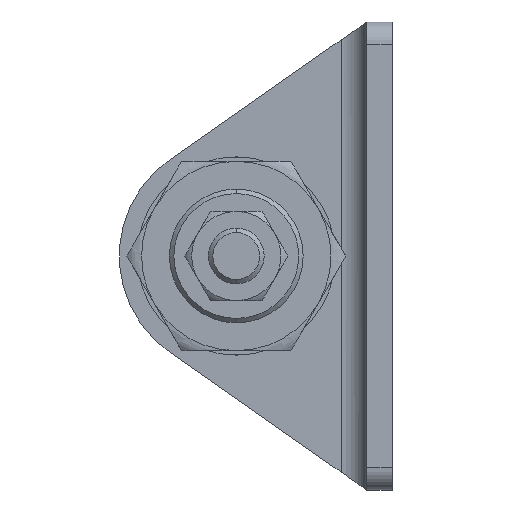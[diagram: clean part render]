
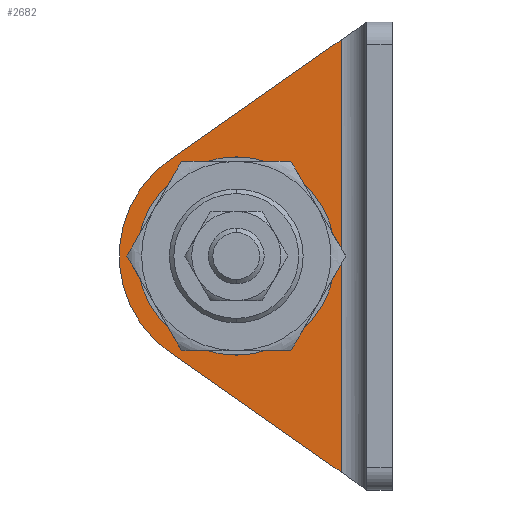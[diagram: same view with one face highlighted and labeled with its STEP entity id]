
A CAD part, left-side view. The second image highlights one B-rep face of the part: STEP entity #2682.
In plain terms, the highlighted planar face has unit normal (-1, 0, 0).
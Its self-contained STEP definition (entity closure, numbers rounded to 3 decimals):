
#60 = ORIENTED_EDGE ( 'NONE', *, *, #3533, .T. ) ;
#224 = LINE ( 'NONE', #1435, #2938 ) ;
#327 = CARTESIAN_POINT ( 'NONE',  ( -2.3, 20.019, -8.604 ) ) ;
#328 = VERTEX_POINT ( 'NONE', #3482 ) ;
#562 = DIRECTION ( 'NONE',  ( 0., -0.819, -0.573 ) ) ;
#648 = DIRECTION ( 'NONE',  ( 0., -1., 0. ) ) ;
#685 = AXIS2_PLACEMENT_3D ( 'NONE', #1723, #1981, #1039 ) ;
#723 = FACE_OUTER_BOUND ( 'NONE', #1159, .T. ) ;
#729 = CARTESIAN_POINT ( 'NONE',  ( -2.3, 2.3, 21. ) ) ;
#799 = CARTESIAN_POINT ( 'NONE',  ( -2.3, 20.019, 8.604 ) ) ;
#816 = EDGE_CURVE ( 'NONE', #2627, #1295, #960, .T. ) ;
#842 = ORIENTED_EDGE ( 'NONE', *, *, #3281, .T. ) ;
#896 = CARTESIAN_POINT ( 'NONE',  ( -2.3, 22.028, -7.198 ) ) ;
#960 = LINE ( 'NONE', #1965, #2496 ) ;
#1002 = EDGE_LOOP ( 'NONE', ( #3277, #2495 ) ) ;
#1039 = DIRECTION ( 'NONE',  ( 0., -1., 0. ) ) ;
#1159 = EDGE_LOOP ( 'NONE', ( #3412, #60, #842, #2633 ) ) ;
#1295 = VERTEX_POINT ( 'NONE', #799 ) ;
#1374 = AXIS2_PLACEMENT_3D ( 'NONE', #3986, #1839, #2215 ) ;
#1435 = CARTESIAN_POINT ( 'NONE',  ( -2.3, 4.6, 21. ) ) ;
#1723 = CARTESIAN_POINT ( 'NONE',  ( -2.3, 14., 0. ) ) ;
#1744 = PLANE ( 'NONE',  #3032 ) ;
#1839 = DIRECTION ( 'NONE',  ( -1., 0., 0. ) ) ;
#1842 = DIRECTION ( 'NONE',  ( -1., 0., 0. ) ) ;
#1864 = VERTEX_POINT ( 'NONE', #3592 ) ;
#1903 = VERTEX_POINT ( 'NONE', #2353 ) ;
#1965 = CARTESIAN_POINT ( 'NONE',  ( -2.3, 2.3, 21. ) ) ;
#1981 = DIRECTION ( 'NONE',  ( -1., 0., 0. ) ) ;
#2034 = CIRCLE ( 'NONE', #2093, 10.5 ) ;
#2093 = AXIS2_PLACEMENT_3D ( 'NONE', #3597, #1842, #3137 ) ;
#2215 = DIRECTION ( 'NONE',  ( 0., -1., 0. ) ) ;
#2353 = CARTESIAN_POINT ( 'NONE',  ( -2.3, 4.6, -19.391 ) ) ;
#2372 = CARTESIAN_POINT ( 'NONE',  ( -2.3, 4.6, 19.391 ) ) ;
#2452 = DIRECTION ( 'NONE',  ( 0., 0., -1. ) ) ;
#2466 = EDGE_CURVE ( 'NONE', #328, #1864, #3853, .T. ) ;
#2495 = ORIENTED_EDGE ( 'NONE', *, *, #3381, .F. ) ;
#2496 = VECTOR ( 'NONE', #3994, 1000. ) ;
#2562 = LINE ( 'NONE', #896, #3358 ) ;
#2627 = VERTEX_POINT ( 'NONE', #2372 ) ;
#2633 = ORIENTED_EDGE ( 'NONE', *, *, #3256, .F. ) ;
#2682 = ADVANCED_FACE ( 'NONE', ( #3361, #723 ), #1744, .T. ) ;
#2938 = VECTOR ( 'NONE', #2452, 1000. ) ;
#3032 = AXIS2_PLACEMENT_3D ( 'NONE', #729, #3889, #648 ) ;
#3137 = DIRECTION ( 'NONE',  ( 0., -1., 0. ) ) ;
#3256 = EDGE_CURVE ( 'NONE', #2627, #1903, #224, .T. ) ;
#3277 = ORIENTED_EDGE ( 'NONE', *, *, #2466, .F. ) ;
#3281 = EDGE_CURVE ( 'NONE', #3832, #1903, #2562, .T. ) ;
#3358 = VECTOR ( 'NONE', #562, 1000. ) ;
#3361 = FACE_BOUND ( 'NONE', #1002, .T. ) ;
#3381 = EDGE_CURVE ( 'NONE', #1864, #328, #3514, .T. ) ;
#3412 = ORIENTED_EDGE ( 'NONE', *, *, #816, .T. ) ;
#3482 = CARTESIAN_POINT ( 'NONE',  ( -2.3, 5.1, 0. ) ) ;
#3514 = CIRCLE ( 'NONE', #1374, 8.9 ) ;
#3533 = EDGE_CURVE ( 'NONE', #1295, #3832, #2034, .T. ) ;
#3592 = CARTESIAN_POINT ( 'NONE',  ( -2.3, 22.9, 0. ) ) ;
#3597 = CARTESIAN_POINT ( 'NONE',  ( -2.3, 14., 0. ) ) ;
#3832 = VERTEX_POINT ( 'NONE', #327 ) ;
#3853 = CIRCLE ( 'NONE', #685, 8.9 ) ;
#3889 = DIRECTION ( 'NONE',  ( -1., 0., 0. ) ) ;
#3986 = CARTESIAN_POINT ( 'NONE',  ( -2.3, 14., 0. ) ) ;
#3994 = DIRECTION ( 'NONE',  ( 0., 0.819, -0.573 ) ) ;
